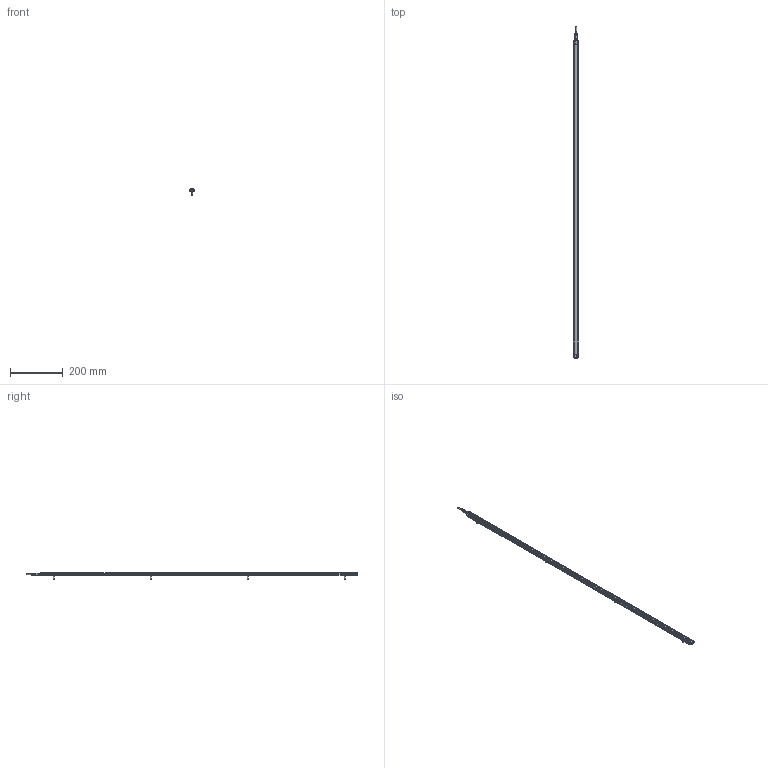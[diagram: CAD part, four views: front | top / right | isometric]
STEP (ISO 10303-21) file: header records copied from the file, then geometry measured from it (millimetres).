
FILE_DESCRIPTION (( 'STEP AP214' ), '1' );
FILE_NAME ('ILGA-B-K2-1200mm.STEP', '2026-04-24T22:55:50', ( '' ), ( '' ), 'SwSTEP 2.0', 'SolidWorks 2025', '' );
FILE_SCHEMA (( 'AUTOMOTIVE_DESIGN' ));
Length unit declared in the file: millimetre
Products named in the file (1): ILGA-B-K2-1200mm
Bounding box: 22.4 x 1254.5 x 25.7 mm (x, y, z)
Surface area: 165859.5 mm2 (no closed solid volume)
Topology: 0 solids, 17 shells, 975 faces, 2532 edges, 1571 vertices
Faces by surface type: cylinder 403, plane 364, cone 86, bspline 56, torus 50, sphere 16
Entity records: 42888 total; most frequent: CARTESIAN_POINT 8692, ORIENTED_EDGE 4945, DIRECTION 4896, EDGE_CURVE 2480, AXIS2_PLACEMENT_3D 1879, VERTEX_POINT 1571, VECTOR 1138, LINE 1138
